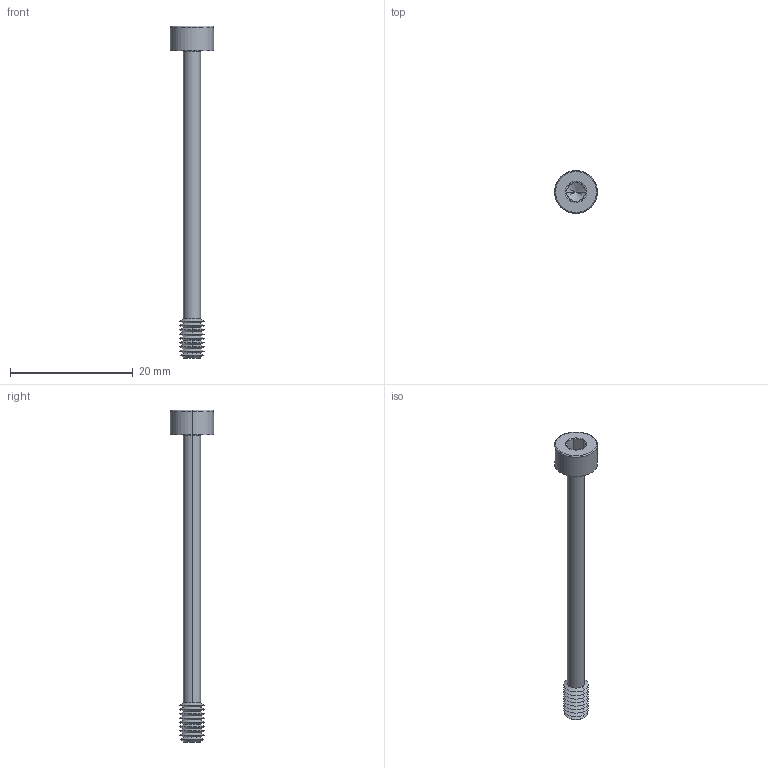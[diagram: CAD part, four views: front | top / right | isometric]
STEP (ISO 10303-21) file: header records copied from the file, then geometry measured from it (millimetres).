
FILE_DESCRIPTION (( 'STEP AP203' ), '1' );
FILE_NAME ('P0154.040-050-BL.step', '2024-06-17T11:25:56', ( '' ), ( '' ), 'SwSTEP 2.0', 'SolidWorks 2019', '' );
FILE_SCHEMA (( 'CONFIG_CONTROL_DESIGN' ));
Length unit declared in the file: millimetre
Products named in the file (1): P0154.040-050-BL
Bounding box: 7 x 7 x 54 mm (x, y, z)
Volume: 454.7 mm3; surface area: 710.5 mm2
Topology: 1 solids, 1 shells, 67 faces, 136 edges, 71 vertices
Faces by surface type: cone 44, plane 15, torus 4, cylinder 4
Entity records: 1787 total; most frequent: DIRECTION 332, CARTESIAN_POINT 299, ORIENTED_EDGE 268, AXIS2_PLACEMENT_3D 136, EDGE_CURVE 134, VERTEX_POINT 71, EDGE_LOOP 69, CIRCLE 68
